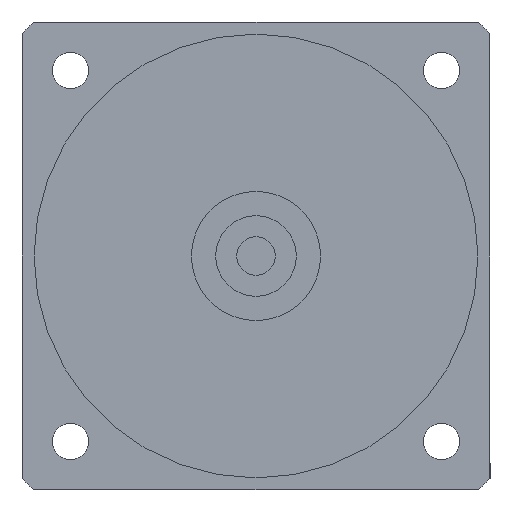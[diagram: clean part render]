
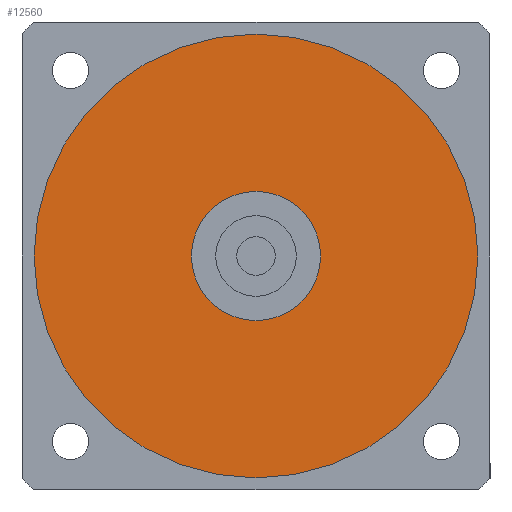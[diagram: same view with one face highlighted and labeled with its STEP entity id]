
A CAD part, left-side view. The second image highlights one B-rep face of the part: STEP entity #12560.
In plain terms, the highlighted planar face has unit normal (-1, 0, 0) as drawn and (0, 0, -1) by its records, which use the part's own axes.
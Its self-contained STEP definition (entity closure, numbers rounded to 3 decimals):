
#11950=CARTESIAN_POINT('',(0.,0.,
-88.5));
#11960=DIRECTION('',(0.,0.,1.));
#11970=DIRECTION('',(0.,-1.,0.));
#11980=AXIS2_PLACEMENT_3D('',#11950,#11960,#11970);
#11990=CIRCLE('',#11980,16.);
#12000=CARTESIAN_POINT('',(0.,-16.,-88.5));
#12010=VERTEX_POINT('',#12000);
#12020=CARTESIAN_POINT('',(16.,0.,-88.5));
#12030=VERTEX_POINT('',#12020);
#12040=EDGE_CURVE('',#12010,#12030,#11990,.T.);
#12170=CARTESIAN_POINT('',(-16.,0.,-88.5));
#12180=VERTEX_POINT('',#12170);
#12210=EDGE_CURVE('',#12180,#12010,#11990,.T.);
#12260=CARTESIAN_POINT('',(0.,0.,
-88.5));
#12270=DIRECTION('',(0.,0.,1.));
#12280=DIRECTION('',(-1.,0.,0.));
#12290=AXIS2_PLACEMENT_3D('',#12260,#12270,#12280);
#12300=PLANE('',#12290);
#12310=CARTESIAN_POINT('',(0.,0.,
-88.5));
#12320=DIRECTION('',(0.,0.,1.));
#12330=DIRECTION('',(0.,-1.,0.));
#12340=AXIS2_PLACEMENT_3D('',#12310,#12320,#12330);
#12350=CIRCLE('',#12340,55.);
#12360=CARTESIAN_POINT('',(0.,-55.,-88.5));
#12370=VERTEX_POINT('',#12360);
#12380=CARTESIAN_POINT('',(55.,0.,-88.5));
#12390=VERTEX_POINT('',#12380);
#12400=EDGE_CURVE('',#12370,#12390,#12350,.T.);
#12410=ORIENTED_EDGE('',*,*,#12400,.F.);
#12420=CARTESIAN_POINT('',(-55.,0.,-88.5));
#12430=VERTEX_POINT('',#12420);
#12440=EDGE_CURVE('',#12390,#12430,#12350,.T.);
#12450=ORIENTED_EDGE('',*,*,#12440,.F.);
#12460=EDGE_CURVE('',#12430,#12370,#12350,.T.);
#12470=ORIENTED_EDGE('',*,*,#12460,.F.);
#12480=EDGE_LOOP('',(#12470,#12450,#12410));
#12490=FACE_OUTER_BOUND('',#12480,.T.);
#12500=EDGE_CURVE('',#12030,#12180,#11990,.T.);
#12510=ORIENTED_EDGE('',*,*,#12500,.T.);
#12520=ORIENTED_EDGE('',*,*,#12040,.T.);
#12530=ORIENTED_EDGE('',*,*,#12210,.T.);
#12540=EDGE_LOOP('',(#12530,#12520,#12510));
#12550=FACE_BOUND('',#12540,.T.);
#12560=ADVANCED_FACE('',(#12490,#12550),#12300,.F.);
